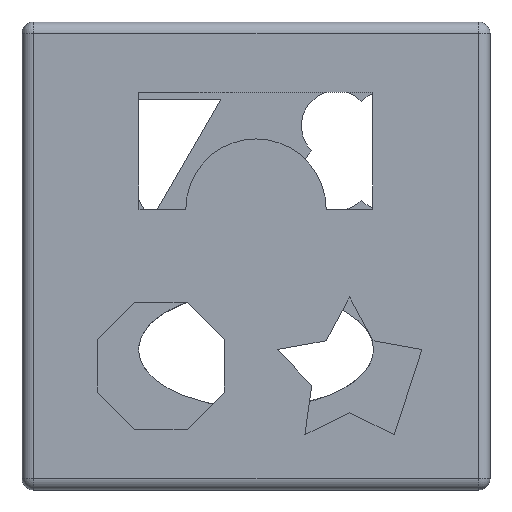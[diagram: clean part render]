
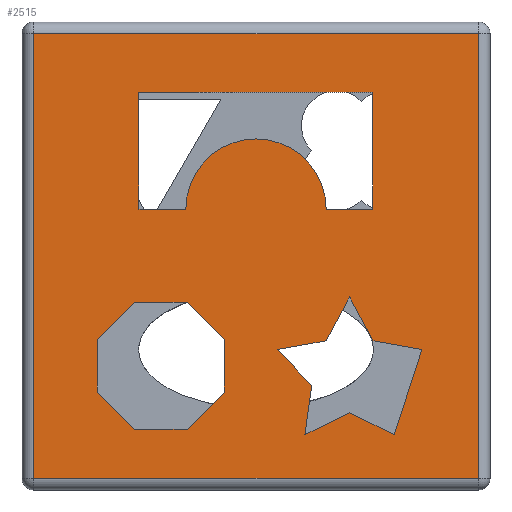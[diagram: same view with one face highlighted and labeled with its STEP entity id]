
A CAD part, left-side view. The second image highlights one B-rep face of the part: STEP entity #2515.
In plain terms, the highlighted planar face has unit normal (-1, 0, 0).
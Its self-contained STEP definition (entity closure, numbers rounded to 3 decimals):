
#24=FACE_BOUND('',#457,.T.);
#25=FACE_BOUND('',#458,.T.);
#26=FACE_BOUND('',#459,.T.);
#77=CIRCLE('',#2651,30.);
#191=PLANE('',#2715);
#319=FACE_OUTER_BOUND('',#456,.T.);
#456=EDGE_LOOP('',(#2097,#2098,#2099,#2100));
#457=EDGE_LOOP('',(#2101,#2102,#2103,#2104,#2105,#2106,#2107,#2108,#2109));
#458=EDGE_LOOP('',(#2110,#2111,#2112,#2113,#2114,#2115));
#459=EDGE_LOOP('',(#2116,#2117,#2118,#2119,#2120,#2121,#2122,#2123));
#628=LINE('',#3707,#930);
#632=LINE('',#3715,#934);
#635=LINE('',#3721,#937);
#638=LINE('',#3727,#940);
#641=LINE('',#3733,#943);
#644=LINE('',#3739,#946);
#647=LINE('',#3745,#949);
#650=LINE('',#3751,#952);
#653=LINE('',#3756,#955);
#655=LINE('',#3761,#957);
#659=LINE('',#3769,#961);
#662=LINE('',#3775,#964);
#666=LINE('',#3787,#968);
#669=LINE('',#3792,#971);
#671=LINE('',#3797,#973);
#675=LINE('',#3805,#977);
#678=LINE('',#3811,#980);
#681=LINE('',#3817,#983);
#684=LINE('',#3823,#986);
#687=LINE('',#3829,#989);
#690=LINE('',#3835,#992);
#693=LINE('',#3840,#995);
#707=LINE('',#3920,#1009);
#710=LINE('',#3924,#1012);
#716=LINE('',#3933,#1018);
#719=LINE('',#3941,#1021);
#930=VECTOR('',#2984,10.);
#934=VECTOR('',#2990,10.);
#937=VECTOR('',#2995,10.);
#940=VECTOR('',#3000,10.);
#943=VECTOR('',#3005,10.);
#946=VECTOR('',#3010,10.);
#949=VECTOR('',#3015,10.);
#952=VECTOR('',#3020,10.);
#955=VECTOR('',#3025,10.);
#957=VECTOR('',#3029,10.);
#961=VECTOR('',#3035,10.);
#964=VECTOR('',#3040,10.);
#968=VECTOR('',#3052,10.);
#971=VECTOR('',#3057,10.);
#973=VECTOR('',#3061,10.);
#977=VECTOR('',#3067,10.);
#980=VECTOR('',#3072,10.);
#983=VECTOR('',#3077,10.);
#986=VECTOR('',#3082,10.);
#989=VECTOR('',#3087,10.);
#992=VECTOR('',#3092,10.);
#995=VECTOR('',#3097,10.);
#1009=VECTOR('',#3191,10.);
#1012=VECTOR('',#3196,10.);
#1018=VECTOR('',#3208,10.);
#1021=VECTOR('',#3217,10.);
#1215=VERTEX_POINT('',#3705);
#1216=VERTEX_POINT('',#3706);
#1219=VERTEX_POINT('',#3714);
#1221=VERTEX_POINT('',#3720);
#1223=VERTEX_POINT('',#3726);
#1225=VERTEX_POINT('',#3732);
#1227=VERTEX_POINT('',#3738);
#1229=VERTEX_POINT('',#3744);
#1231=VERTEX_POINT('',#3750);
#1233=VERTEX_POINT('',#3759);
#1234=VERTEX_POINT('',#3760);
#1237=VERTEX_POINT('',#3768);
#1239=VERTEX_POINT('',#3774);
#1241=VERTEX_POINT('',#3780);
#1243=VERTEX_POINT('',#3786);
#1245=VERTEX_POINT('',#3795);
#1246=VERTEX_POINT('',#3796);
#1249=VERTEX_POINT('',#3804);
#1251=VERTEX_POINT('',#3810);
#1253=VERTEX_POINT('',#3816);
#1255=VERTEX_POINT('',#3822);
#1257=VERTEX_POINT('',#3828);
#1259=VERTEX_POINT('',#3834);
#1261=VERTEX_POINT('',#3843);
#1265=VERTEX_POINT('',#3851);
#1269=VERTEX_POINT('',#3860);
#1277=VERTEX_POINT('',#3882);
#1484=EDGE_CURVE('',#1215,#1216,#628,.T.);
#1488=EDGE_CURVE('',#1219,#1215,#632,.T.);
#1491=EDGE_CURVE('',#1221,#1219,#635,.T.);
#1494=EDGE_CURVE('',#1223,#1221,#638,.T.);
#1497=EDGE_CURVE('',#1225,#1223,#641,.T.);
#1500=EDGE_CURVE('',#1227,#1225,#644,.T.);
#1503=EDGE_CURVE('',#1229,#1227,#647,.T.);
#1506=EDGE_CURVE('',#1231,#1229,#650,.T.);
#1509=EDGE_CURVE('',#1216,#1231,#653,.T.);
#1511=EDGE_CURVE('',#1233,#1234,#655,.T.);
#1515=EDGE_CURVE('',#1237,#1233,#659,.T.);
#1518=EDGE_CURVE('',#1239,#1237,#662,.T.);
#1521=EDGE_CURVE('',#1241,#1239,#77,.T.);
#1524=EDGE_CURVE('',#1243,#1241,#666,.T.);
#1527=EDGE_CURVE('',#1234,#1243,#669,.T.);
#1529=EDGE_CURVE('',#1245,#1246,#671,.T.);
#1533=EDGE_CURVE('',#1249,#1245,#675,.T.);
#1536=EDGE_CURVE('',#1251,#1249,#678,.T.);
#1539=EDGE_CURVE('',#1253,#1251,#681,.T.);
#1542=EDGE_CURVE('',#1255,#1253,#684,.T.);
#1545=EDGE_CURVE('',#1257,#1255,#687,.T.);
#1548=EDGE_CURVE('',#1259,#1257,#690,.T.);
#1551=EDGE_CURVE('',#1246,#1259,#693,.T.);
#1590=EDGE_CURVE('',#1265,#1277,#707,.T.);
#1593=EDGE_CURVE('',#1277,#1269,#710,.T.);
#1599=EDGE_CURVE('',#1269,#1261,#716,.T.);
#1603=EDGE_CURVE('',#1261,#1265,#719,.T.);
#2097=ORIENTED_EDGE('',*,*,#1590,.F.);
#2098=ORIENTED_EDGE('',*,*,#1603,.F.);
#2099=ORIENTED_EDGE('',*,*,#1599,.F.);
#2100=ORIENTED_EDGE('',*,*,#1593,.F.);
#2101=ORIENTED_EDGE('',*,*,#1484,.T.);
#2102=ORIENTED_EDGE('',*,*,#1509,.T.);
#2103=ORIENTED_EDGE('',*,*,#1506,.T.);
#2104=ORIENTED_EDGE('',*,*,#1503,.T.);
#2105=ORIENTED_EDGE('',*,*,#1500,.T.);
#2106=ORIENTED_EDGE('',*,*,#1497,.T.);
#2107=ORIENTED_EDGE('',*,*,#1494,.T.);
#2108=ORIENTED_EDGE('',*,*,#1491,.T.);
#2109=ORIENTED_EDGE('',*,*,#1488,.T.);
#2110=ORIENTED_EDGE('',*,*,#1511,.T.);
#2111=ORIENTED_EDGE('',*,*,#1527,.T.);
#2112=ORIENTED_EDGE('',*,*,#1524,.T.);
#2113=ORIENTED_EDGE('',*,*,#1521,.T.);
#2114=ORIENTED_EDGE('',*,*,#1518,.T.);
#2115=ORIENTED_EDGE('',*,*,#1515,.T.);
#2116=ORIENTED_EDGE('',*,*,#1529,.T.);
#2117=ORIENTED_EDGE('',*,*,#1551,.T.);
#2118=ORIENTED_EDGE('',*,*,#1548,.T.);
#2119=ORIENTED_EDGE('',*,*,#1545,.T.);
#2120=ORIENTED_EDGE('',*,*,#1542,.T.);
#2121=ORIENTED_EDGE('',*,*,#1539,.T.);
#2122=ORIENTED_EDGE('',*,*,#1536,.T.);
#2123=ORIENTED_EDGE('',*,*,#1533,.T.);
#2515=ADVANCED_FACE('',(#319,#24,#25,#26),#191,.T.);
#2651=AXIS2_PLACEMENT_3D('',#3781,#3045,#3046);
#2715=AXIS2_PLACEMENT_3D('',#3966,#3239,#3240);
#2984=DIRECTION('',(0.,-0.471,-0.882));
#2990=DIRECTION('',(0.,-0.471,0.882));
#2995=DIRECTION('',(0.,-0.985,0.175));
#3000=DIRECTION('',(0.,0.694,0.72));
#3005=DIRECTION('',(0.,-0.138,0.99));
#3010=DIRECTION('',(0.,0.899,-0.437));
#3015=DIRECTION('',(0.,0.899,0.437));
#3020=DIRECTION('',(0.,0.309,-0.951));
#3025=DIRECTION('',(0.,-0.985,-0.175));
#3029=DIRECTION('',(0.,-1.,0.));
#3035=DIRECTION('',(0.,0.,1.));
#3040=DIRECTION('',(0.,1.,0.));
#3045=DIRECTION('center_axis',(-1.,0.,0.));
#3046=DIRECTION('ref_axis',(0.,1.,0.001));
#3052=DIRECTION('',(0.,1.,0.));
#3057=DIRECTION('',(0.,0.,-1.));
#3061=DIRECTION('',(0.,0.,1.));
#3067=DIRECTION('',(0.,0.707,0.707));
#3072=DIRECTION('',(0.,1.,0.));
#3077=DIRECTION('',(0.,0.707,-0.707));
#3082=DIRECTION('',(0.,0.,-1.));
#3087=DIRECTION('',(0.,-0.707,-0.707));
#3092=DIRECTION('',(0.,-1.,0.));
#3097=DIRECTION('',(0.,-0.707,0.707));
#3191=DIRECTION('',(0.,1.,0.));
#3196=DIRECTION('',(0.,0.,1.));
#3208=DIRECTION('',(0.,-1.,0.));
#3217=DIRECTION('',(0.,0.,-1.));
#3239=DIRECTION('center_axis',(-1.,0.,0.));
#3240=DIRECTION('ref_axis',(0.,-1.,0.));
#3705=CARTESIAN_POINT('',(-100.,-40.,82.5));
#3706=CARTESIAN_POINT('',(-100.,-50.,63.764));
#3707=CARTESIAN_POINT('',(-100.,-41.616,79.473));
#3714=CARTESIAN_POINT('',(-100.,-30.,63.764));
#3715=CARTESIAN_POINT('',(-100.,-2.345,11.95));
#3720=CARTESIAN_POINT('',(-100.,-9.091,60.043));
#3721=CARTESIAN_POINT('',(-100.,48.959,49.713));
#3726=CARTESIAN_POINT('',(-100.,-23.82,44.743));
#3727=CARTESIAN_POINT('',(-100.,-5.22,64.064));
#3732=CARTESIAN_POINT('',(-100.,-20.897,23.707));
#3733=CARTESIAN_POINT('',(-100.,-18.136,3.838));
#3738=CARTESIAN_POINT('',(-100.,-40.,32.987));
#3739=CARTESIAN_POINT('',(-100.,23.117,2.325));
#3744=CARTESIAN_POINT('',(-100.,-59.103,23.707));
#3745=CARTESIAN_POINT('',(-100.,0.601,52.71));
#3750=CARTESIAN_POINT('',(-100.,-70.909,60.043));
#3751=CARTESIAN_POINT('',(-100.,-53.926,7.774));
#3756=CARTESIAN_POINT('',(-100.,17.199,75.722));
#3759=CARTESIAN_POINT('',(-100.,50.,170.));
#3760=CARTESIAN_POINT('',(-100.,-50.,170.));
#3761=CARTESIAN_POINT('',(-100.,75.,170.));
#3768=CARTESIAN_POINT('',(-100.,50.,120.));
#3769=CARTESIAN_POINT('',(-100.,50.,60.));
#3774=CARTESIAN_POINT('',(-100.,30.,120.));
#3775=CARTESIAN_POINT('',(-100.,65.,120.));
#3780=CARTESIAN_POINT('',(-100.,-30.,120.));
#3781=CARTESIAN_POINT('Origin',(-100.,0.,120.023));
#3786=CARTESIAN_POINT('',(-100.,-50.,120.));
#3787=CARTESIAN_POINT('',(-100.,25.,120.));
#3792=CARTESIAN_POINT('',(-100.,-50.,85.));
#3795=CARTESIAN_POINT('',(-100.,67.827,41.853));
#3796=CARTESIAN_POINT('',(-100.,67.827,64.353));
#3797=CARTESIAN_POINT('',(-100.,67.827,20.927));
#3804=CARTESIAN_POINT('',(-100.,51.917,25.944));
#3805=CARTESIAN_POINT('',(-100.,57.452,31.479));
#3810=CARTESIAN_POINT('',(-100.,29.417,25.944));
#3811=CARTESIAN_POINT('',(-100.,64.708,25.944));
#3816=CARTESIAN_POINT('',(-100.,13.507,41.853));
#3817=CARTESIAN_POINT('',(-100.,45.594,9.767));
#3822=CARTESIAN_POINT('',(-100.,13.507,64.353));
#3823=CARTESIAN_POINT('',(-100.,13.507,32.177));
#3828=CARTESIAN_POINT('',(-100.,29.417,80.263));
#3829=CARTESIAN_POINT('',(-100.,26.997,77.843));
#3834=CARTESIAN_POINT('',(-100.,51.917,80.263));
#3835=CARTESIAN_POINT('',(-100.,75.958,80.263));
#3840=CARTESIAN_POINT('',(-100.,91.958,40.222));
#3843=CARTESIAN_POINT('',(-100.,-95.,195.));
#3851=CARTESIAN_POINT('',(-100.,-95.,5.));
#3860=CARTESIAN_POINT('',(-100.,95.,195.));
#3882=CARTESIAN_POINT('',(-100.,95.,5.));
#3920=CARTESIAN_POINT('',(-100.,50.,5.));
#3924=CARTESIAN_POINT('',(-100.,95.,0.));
#3933=CARTESIAN_POINT('',(-100.,50.,195.));
#3941=CARTESIAN_POINT('',(-100.,-95.,0.));
#3966=CARTESIAN_POINT('Origin',(-100.,100.,0.));
